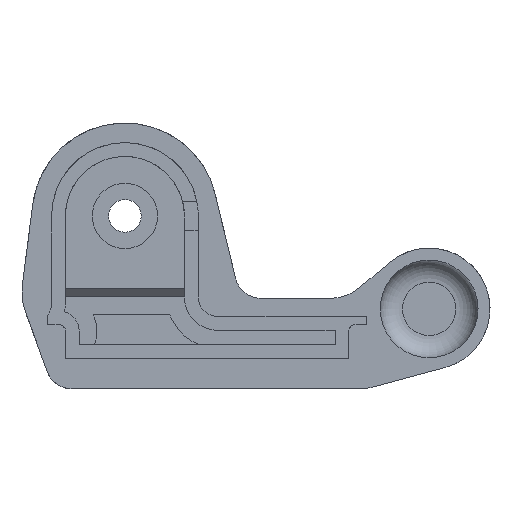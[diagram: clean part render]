
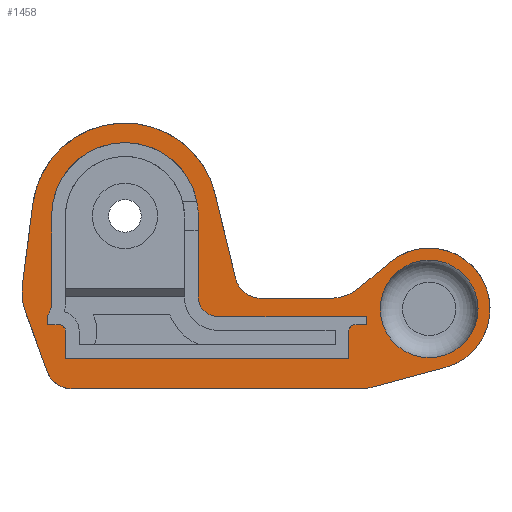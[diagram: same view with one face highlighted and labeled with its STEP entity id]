
A CAD part, front view. The second image highlights one B-rep face of the part: STEP entity #1458.
In plain terms, the highlighted planar face has unit normal (0, -1, 0).
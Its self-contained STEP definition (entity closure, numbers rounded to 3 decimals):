
#28=FACE_BOUND('',#199,.T.);
#29=FACE_BOUND('',#200,.T.);
#63=PLANE('',#1582);
#117=FACE_OUTER_BOUND('',#198,.T.);
#198=EDGE_LOOP('',(#1103,#1104,#1105,#1106,#1107,#1108,#1109,#1110,#1111,
#1112,#1113,#1114,#1115,#1116));
#199=EDGE_LOOP('',(#1117,#1118,#1119,#1120,#1121,#1122,#1123,#1124,#1125,
#1126,#1127,#1128,#1129,#1130,#1131));
#200=EDGE_LOOP('',(#1132));
#259=LINE('',#2133,#395);
#268=LINE('',#2160,#404);
#272=LINE('',#2167,#408);
#274=LINE('',#2171,#410);
#302=LINE('',#2269,#438);
#308=LINE('',#2282,#444);
#310=LINE('',#2286,#446);
#312=LINE('',#2290,#448);
#315=LINE('',#2298,#451);
#317=LINE('',#2302,#453);
#319=LINE('',#2306,#455);
#322=LINE('',#2314,#458);
#324=LINE('',#2318,#460);
#327=LINE('',#2326,#463);
#328=LINE('',#2332,#464);
#329=LINE('',#2336,#465);
#330=LINE('',#2340,#466);
#395=VECTOR('',#1689,10.);
#404=VECTOR('',#1712,10.);
#408=VECTOR('',#1718,10.);
#410=VECTOR('',#1722,10.);
#438=VECTOR('',#1806,10.);
#444=VECTOR('',#1818,10.);
#446=VECTOR('',#1822,10.);
#448=VECTOR('',#1826,10.);
#451=VECTOR('',#1835,10.);
#453=VECTOR('',#1839,10.);
#455=VECTOR('',#1843,10.);
#458=VECTOR('',#1852,10.);
#460=VECTOR('',#1856,10.);
#463=VECTOR('',#1865,10.);
#464=VECTOR('',#1872,10.);
#465=VECTOR('',#1875,10.);
#466=VECTOR('',#1878,10.);
#529=CIRCLE('',#1525,5.);
#531=CIRCLE('',#1529,4.);
#536=CIRCLE('',#1543,5.5);
#551=CIRCLE('',#1566,2.2);
#552=CIRCLE('',#1571,0.7);
#553=CIRCLE('',#1576,0.7);
#554=CIRCLE('',#1580,2.2);
#555=CIRCLE('',#1583,6.85);
#556=CIRCLE('',#1584,3.);
#557=CIRCLE('',#1585,10.45);
#558=CIRCLE('',#1586,7.);
#559=CIRCLE('',#1587,3.);
#560=CIRCLE('',#1588,8.25);
#595=VERTEX_POINT('',#2123);
#596=VERTEX_POINT('',#2124);
#599=VERTEX_POINT('',#2132);
#601=VERTEX_POINT('',#2138);
#602=VERTEX_POINT('',#2139);
#610=VERTEX_POINT('',#2159);
#612=VERTEX_POINT('',#2165);
#613=VERTEX_POINT('',#2169);
#617=VERTEX_POINT('',#2181);
#654=VERTEX_POINT('',#2266);
#655=VERTEX_POINT('',#2268);
#658=VERTEX_POINT('',#2276);
#659=VERTEX_POINT('',#2280);
#660=VERTEX_POINT('',#2284);
#661=VERTEX_POINT('',#2288);
#662=VERTEX_POINT('',#2292);
#663=VERTEX_POINT('',#2296);
#664=VERTEX_POINT('',#2300);
#665=VERTEX_POINT('',#2304);
#666=VERTEX_POINT('',#2308);
#667=VERTEX_POINT('',#2312);
#668=VERTEX_POINT('',#2316);
#669=VERTEX_POINT('',#2320);
#670=VERTEX_POINT('',#2324);
#671=VERTEX_POINT('',#2329);
#672=VERTEX_POINT('',#2331);
#673=VERTEX_POINT('',#2333);
#674=VERTEX_POINT('',#2335);
#675=VERTEX_POINT('',#2337);
#676=VERTEX_POINT('',#2339);
#740=EDGE_CURVE('',#595,#596,#529,.T.);
#744=EDGE_CURVE('',#596,#599,#259,.T.);
#747=EDGE_CURVE('',#601,#602,#531,.T.);
#757=EDGE_CURVE('',#602,#610,#268,.T.);
#761=EDGE_CURVE('',#612,#595,#272,.T.);
#763=EDGE_CURVE('',#613,#601,#274,.T.);
#769=EDGE_CURVE('',#617,#617,#536,.T.);
#810=EDGE_CURVE('',#654,#655,#302,.T.);
#815=EDGE_CURVE('',#658,#654,#551,.T.);
#817=EDGE_CURVE('',#659,#658,#308,.T.);
#819=EDGE_CURVE('',#660,#659,#310,.T.);
#821=EDGE_CURVE('',#661,#660,#312,.T.);
#823=EDGE_CURVE('',#662,#661,#552,.T.);
#825=EDGE_CURVE('',#663,#662,#315,.T.);
#827=EDGE_CURVE('',#664,#663,#317,.T.);
#829=EDGE_CURVE('',#665,#664,#319,.T.);
#831=EDGE_CURVE('',#666,#665,#553,.T.);
#833=EDGE_CURVE('',#667,#666,#322,.T.);
#835=EDGE_CURVE('',#668,#667,#324,.T.);
#837=EDGE_CURVE('',#669,#668,#554,.T.);
#839=EDGE_CURVE('',#670,#669,#327,.T.);
#840=EDGE_CURVE('',#599,#613,#555,.T.);
#841=EDGE_CURVE('',#671,#612,#556,.T.);
#842=EDGE_CURVE('',#672,#671,#328,.T.);
#843=EDGE_CURVE('',#673,#672,#557,.T.);
#844=EDGE_CURVE('',#674,#673,#329,.T.);
#845=EDGE_CURVE('',#675,#674,#558,.T.);
#846=EDGE_CURVE('',#676,#675,#330,.T.);
#847=EDGE_CURVE('',#610,#676,#559,.T.);
#848=EDGE_CURVE('',#655,#670,#560,.T.);
#1103=ORIENTED_EDGE('',*,*,#747,.F.);
#1104=ORIENTED_EDGE('',*,*,#763,.F.);
#1105=ORIENTED_EDGE('',*,*,#840,.F.);
#1106=ORIENTED_EDGE('',*,*,#744,.F.);
#1107=ORIENTED_EDGE('',*,*,#740,.F.);
#1108=ORIENTED_EDGE('',*,*,#761,.F.);
#1109=ORIENTED_EDGE('',*,*,#841,.F.);
#1110=ORIENTED_EDGE('',*,*,#842,.F.);
#1111=ORIENTED_EDGE('',*,*,#843,.F.);
#1112=ORIENTED_EDGE('',*,*,#844,.F.);
#1113=ORIENTED_EDGE('',*,*,#845,.F.);
#1114=ORIENTED_EDGE('',*,*,#846,.F.);
#1115=ORIENTED_EDGE('',*,*,#847,.F.);
#1116=ORIENTED_EDGE('',*,*,#757,.F.);
#1117=ORIENTED_EDGE('',*,*,#839,.F.);
#1118=ORIENTED_EDGE('',*,*,#848,.F.);
#1119=ORIENTED_EDGE('',*,*,#810,.F.);
#1120=ORIENTED_EDGE('',*,*,#815,.F.);
#1121=ORIENTED_EDGE('',*,*,#817,.F.);
#1122=ORIENTED_EDGE('',*,*,#819,.F.);
#1123=ORIENTED_EDGE('',*,*,#821,.F.);
#1124=ORIENTED_EDGE('',*,*,#823,.F.);
#1125=ORIENTED_EDGE('',*,*,#825,.F.);
#1126=ORIENTED_EDGE('',*,*,#827,.F.);
#1127=ORIENTED_EDGE('',*,*,#829,.F.);
#1128=ORIENTED_EDGE('',*,*,#831,.F.);
#1129=ORIENTED_EDGE('',*,*,#833,.F.);
#1130=ORIENTED_EDGE('',*,*,#835,.F.);
#1131=ORIENTED_EDGE('',*,*,#837,.F.);
#1132=ORIENTED_EDGE('',*,*,#769,.F.);
#1458=ADVANCED_FACE('',(#117,#28,#29),#63,.F.);
#1525=AXIS2_PLACEMENT_3D('',#2125,#1681,#1682);
#1529=AXIS2_PLACEMENT_3D('',#2140,#1694,#1695);
#1543=AXIS2_PLACEMENT_3D('',#2183,#1736,#1737);
#1566=AXIS2_PLACEMENT_3D('',#2278,#1813,#1814);
#1571=AXIS2_PLACEMENT_3D('',#2294,#1830,#1831);
#1576=AXIS2_PLACEMENT_3D('',#2310,#1847,#1848);
#1580=AXIS2_PLACEMENT_3D('',#2322,#1860,#1861);
#1582=AXIS2_PLACEMENT_3D('',#2327,#1866,#1867);
#1583=AXIS2_PLACEMENT_3D('',#2328,#1868,#1869);
#1584=AXIS2_PLACEMENT_3D('',#2330,#1870,#1871);
#1585=AXIS2_PLACEMENT_3D('',#2334,#1873,#1874);
#1586=AXIS2_PLACEMENT_3D('',#2338,#1876,#1877);
#1587=AXIS2_PLACEMENT_3D('',#2341,#1879,#1880);
#1588=AXIS2_PLACEMENT_3D('',#2342,#1881,#1882);
#1681=DIRECTION('center_axis',(0.,-1.,0.));
#1682=DIRECTION('ref_axis',(0.339,0.,-0.941));
#1689=DIRECTION('',(0.771,0.,0.637));
#1694=DIRECTION('center_axis',(0.,1.,0.));
#1695=DIRECTION('ref_axis',(0.131,0.,-0.991));
#1712=DIRECTION('',(-1.,0.,0.));
#1718=DIRECTION('',(1.,0.,0.));
#1722=DIRECTION('',(-0.966,0.,-0.259));
#1736=DIRECTION('center_axis',(0.,-1.,0.));
#1737=DIRECTION('ref_axis',(-1.,0.,0.));
#1806=DIRECTION('',(0.,0.,1.));
#1813=DIRECTION('center_axis',(0.,1.,0.));
#1814=DIRECTION('ref_axis',(-1.,0.,0.));
#1818=DIRECTION('',(-1.,0.,0.));
#1822=DIRECTION('',(0.,0.,1.));
#1826=DIRECTION('',(1.,0.,0.));
#1830=DIRECTION('center_axis',(0.,1.,0.));
#1831=DIRECTION('ref_axis',(0.,0.,1.));
#1835=DIRECTION('',(0.,0.,1.));
#1839=DIRECTION('',(1.,0.,0.));
#1843=DIRECTION('',(0.,0.,-1.));
#1847=DIRECTION('center_axis',(0.,1.,0.));
#1848=DIRECTION('ref_axis',(1.,0.,0.));
#1852=DIRECTION('',(1.,0.,0.));
#1856=DIRECTION('',(0.,0.,-1.));
#1860=DIRECTION('center_axis',(0.,1.,0.));
#1861=DIRECTION('ref_axis',(0.776,0.,-0.631));
#1865=DIRECTION('',(0.,0.,-1.));
#1866=DIRECTION('center_axis',(0.,1.,0.));
#1867=DIRECTION('ref_axis',(0.,0.,1.));
#1868=DIRECTION('center_axis',(0.,1.,0.));
#1869=DIRECTION('ref_axis',(1.,0.,0.));
#1870=DIRECTION('center_axis',(0.,-1.,0.));
#1871=DIRECTION('ref_axis',(-0.619,0.,-0.786));
#1872=DIRECTION('',(0.235,0.,-0.972));
#1873=DIRECTION('center_axis',(0.,1.,0.));
#1874=DIRECTION('ref_axis',(-0.992,0.,0.129));
#1875=DIRECTION('',(0.129,0.,0.992));
#1876=DIRECTION('center_axis',(0.,1.,0.));
#1877=DIRECTION('ref_axis',(-0.994,0.,-0.109));
#1878=DIRECTION('',(-0.342,0.,0.94));
#1879=DIRECTION('center_axis',(0.,1.,0.));
#1880=DIRECTION('ref_axis',(-0.574,0.,-0.819));
#1881=DIRECTION('center_axis',(0.,-1.,0.));
#1882=DIRECTION('ref_axis',(-1.,0.,0.));
#2123=CARTESIAN_POINT('',(34.887,114.7,5.2));
#2124=CARTESIAN_POINT('',(38.073,114.7,6.347));
#2125=CARTESIAN_POINT('Origin',(34.887,114.7,10.2));
#2132=CARTESIAN_POINT('',(41.635,114.7,9.292));
#2133=CARTESIAN_POINT('',(37.254,114.7,5.669));
#2138=CARTESIAN_POINT('',(39.338,114.7,-4.864));
#2139=CARTESIAN_POINT('',(38.303,114.7,-5.));
#2140=CARTESIAN_POINT('Origin',(38.303,114.7,-1.));
#2159=CARTESIAN_POINT('',(5.813,114.7,-5.));
#2160=CARTESIAN_POINT('',(23.663,114.7,-5.));
#2165=CARTESIAN_POINT('',(27.103,114.7,5.2));
#2167=CARTESIAN_POINT('',(31.663,114.7,5.2));
#2169=CARTESIAN_POINT('',(47.773,114.7,-2.604));
#2171=CARTESIAN_POINT('',(34.506,114.7,-6.158));
#2181=CARTESIAN_POINT('',(51.5,114.7,4.013));
#2183=CARTESIAN_POINT('Origin',(46.,114.7,4.013));
#2266=CARTESIAN_POINT('',(19.999,114.7,5.35));
#2268=CARTESIAN_POINT('',(19.999,114.7,14.48));
#2269=CARTESIAN_POINT('',(19.999,114.7,7.295));
#2276=CARTESIAN_POINT('',(22.199,114.7,3.15));
#2278=CARTESIAN_POINT('Origin',(22.199,114.7,5.35));
#2280=CARTESIAN_POINT('',(38.95,114.7,3.15));
#2282=CARTESIAN_POINT('',(32.738,114.7,3.15));
#2284=CARTESIAN_POINT('',(38.95,114.7,2.213));
#2286=CARTESIAN_POINT('',(38.95,114.7,5.989));
#2288=CARTESIAN_POINT('',(37.65,114.7,2.213));
#2290=CARTESIAN_POINT('',(31.988,114.7,2.213));
#2292=CARTESIAN_POINT('',(36.95,114.7,1.513));
#2294=CARTESIAN_POINT('Origin',(37.65,114.7,1.513));
#2296=CARTESIAN_POINT('',(36.95,114.7,-1.587));
#2298=CARTESIAN_POINT('',(36.95,114.7,4.089));
#2300=CARTESIAN_POINT('',(5.05,114.7,-1.587));
#2302=CARTESIAN_POINT('',(15.588,114.7,-1.587));
#2304=CARTESIAN_POINT('',(5.05,114.7,1.513));
#2306=CARTESIAN_POINT('',(5.05,114.7,5.739));
#2308=CARTESIAN_POINT('',(4.35,114.7,2.213));
#2310=CARTESIAN_POINT('Origin',(4.35,114.7,1.513));
#2312=CARTESIAN_POINT('',(3.05,114.7,2.213));
#2314=CARTESIAN_POINT('',(14.588,114.7,2.213));
#2316=CARTESIAN_POINT('',(3.05,114.7,3.281));
#2318=CARTESIAN_POINT('',(3.05,114.7,6.658));
#2320=CARTESIAN_POINT('',(3.499,114.7,4.622));
#2322=CARTESIAN_POINT('Origin',(1.299,114.7,4.612));
#2324=CARTESIAN_POINT('',(3.499,114.7,14.48));
#2326=CARTESIAN_POINT('',(3.499,114.7,12.223));
#2327=CARTESIAN_POINT('Origin',(26.325,114.7,9.965));
#2328=CARTESIAN_POINT('Origin',(46.,114.7,4.013));
#2329=CARTESIAN_POINT('',(24.187,114.7,7.496));
#2330=CARTESIAN_POINT('Origin',(27.103,114.7,8.2));
#2331=CARTESIAN_POINT('',(21.907,114.7,16.934));
#2332=CARTESIAN_POINT('',(24.241,114.7,7.27));
#2333=CARTESIAN_POINT('',(1.387,114.7,15.832));
#2334=CARTESIAN_POINT('Origin',(11.749,114.7,14.48));
#2335=CARTESIAN_POINT('',(0.221,114.7,6.894));
#2336=CARTESIAN_POINT('',(1.219,114.7,14.547));
#2337=CARTESIAN_POINT('',(0.584,114.7,3.595));
#2338=CARTESIAN_POINT('Origin',(7.162,114.7,5.989));
#2339=CARTESIAN_POINT('',(2.994,114.7,-3.026));
#2340=CARTESIAN_POINT('',(1.663,114.7,0.63));
#2341=CARTESIAN_POINT('Origin',(5.813,114.7,-2.));
#2342=CARTESIAN_POINT('Origin',(11.749,114.7,14.48));
